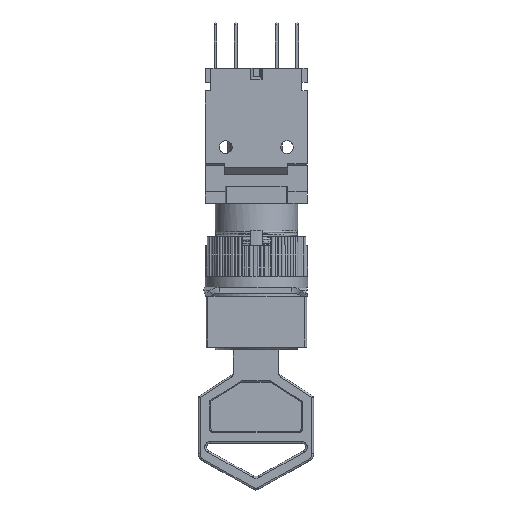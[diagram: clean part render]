
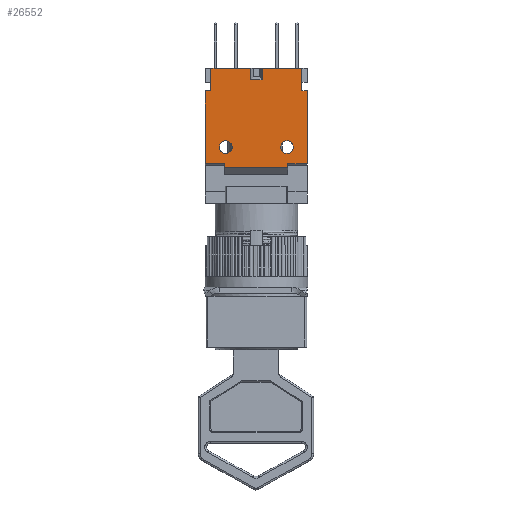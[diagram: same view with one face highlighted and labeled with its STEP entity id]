
A CAD part, front view. The second image highlights one B-rep face of the part: STEP entity #26552.
In plain terms, the highlighted planar face has unit normal (0, -1, 0).
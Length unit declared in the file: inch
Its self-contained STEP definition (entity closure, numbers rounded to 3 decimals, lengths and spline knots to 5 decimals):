
#6380=DIRECTION('',(0.,0.,1.));
#6381=VECTOR('',#6380,4.);
#6382=CARTESIAN_POINT('',(17.15,0.15,-12.2));
#6383=LINE('',#6382,#6381);
#6464=DIRECTION('',(-1.,0.,0.));
#6465=VECTOR('',#6464,1.);
#6466=CARTESIAN_POINT('',(18.15,0.15,-12.2));
#6467=LINE('',#6466,#6465);
#6480=DIRECTION('',(1.,0.,0.));
#6481=VECTOR('',#6480,7.05);
#6482=CARTESIAN_POINT('',(10.1,0.15,-8.2));
#6483=LINE('',#6482,#6481);
#6484=DIRECTION('',(0.,0.,-1.));
#6485=VECTOR('',#6484,12.9);
#6486=CARTESIAN_POINT('',(18.15,0.15,-12.2));
#6487=LINE('',#6486,#6485);
#6488=DIRECTION('',(0.,0.,-1.));
#6489=VECTOR('',#6488,0.75);
#6490=CARTESIAN_POINT('',(14.65,0.15,-25.1));
#6491=LINE('',#6490,#6489);
#6492=DIRECTION('',(0.,0.,1.));
#6493=VECTOR('',#6492,12.9);
#6494=CARTESIAN_POINT('',(0.05,0.15,-25.1));
#6495=LINE('',#6494,#6493);
#6496=DIRECTION('',(0.,0.,1.));
#6497=VECTOR('',#6496,4.);
#6498=CARTESIAN_POINT('',(1.05,0.15,-12.2));
#6499=LINE('',#6498,#6497);
#6500=DIRECTION('',(1.,0.,0.));
#6501=VECTOR('',#6500,7.05);
#6502=CARTESIAN_POINT('',(1.05,0.15,-8.2));
#6503=LINE('',#6502,#6501);
#6504=CARTESIAN_POINT('',(14.525,0.15,-22.165));
#6505=DIRECTION('',(0.,-1.,0.));
#6506=DIRECTION('',(-1.,0.,0.));
#6507=AXIS2_PLACEMENT_3D('',#6504,#6505,#6506);
#6509=CARTESIAN_POINT('',(14.525,0.15,-22.165));
#6510=DIRECTION('',(0.,-1.,0.));
#6511=DIRECTION('',(1.,0.,0.));
#6512=AXIS2_PLACEMENT_3D('',#6509,#6510,#6511);
#6514=CARTESIAN_POINT('',(3.675,0.15,-22.165));
#6515=DIRECTION('',(0.,-1.,0.));
#6516=DIRECTION('',(-1.,0.,0.));
#6517=AXIS2_PLACEMENT_3D('',#6514,#6515,#6516);
#6519=CARTESIAN_POINT('',(3.675,0.15,-22.165));
#6520=DIRECTION('',(0.,-1.,0.));
#6521=DIRECTION('',(1.,0.,0.));
#6522=AXIS2_PLACEMENT_3D('',#6519,#6520,#6521);
#6524=DIRECTION('',(0.,0.,-1.));
#6525=VECTOR('',#6524,2.);
#6526=CARTESIAN_POINT('',(10.1,0.15,-8.2));
#6527=LINE('',#6526,#6525);
#6528=DIRECTION('',(-1.,0.,0.));
#6529=VECTOR('',#6528,2.);
#6530=CARTESIAN_POINT('',(10.1,0.15,-10.2));
#6531=LINE('',#6530,#6529);
#6540=DIRECTION('',(0.,0.,1.));
#6541=VECTOR('',#6540,2.);
#6542=CARTESIAN_POINT('',(8.1,0.15,-10.2));
#6543=LINE('',#6542,#6541);
#6564=DIRECTION('',(1.,0.,0.));
#6565=VECTOR('',#6564,3.5);
#6566=CARTESIAN_POINT('',(14.65,0.15,-25.1));
#6567=LINE('',#6566,#6565);
#10903=DIRECTION('',(1.,0.,0.));
#10904=VECTOR('',#10903,3.4);
#10905=CARTESIAN_POINT('',(0.05,0.15,-25.1));
#10906=LINE('',#10905,#10904);
#10915=DIRECTION('',(0.,0.,-1.));
#10916=VECTOR('',#10915,0.75);
#10917=CARTESIAN_POINT('',(3.45,0.15,-25.1));
#10918=LINE('',#10917,#10916);
#10923=DIRECTION('',(1.,0.,0.));
#10924=VECTOR('',#10923,11.2);
#10925=CARTESIAN_POINT('',(3.45,0.15,-25.85));
#10926=LINE('',#10925,#10924);
#10971=DIRECTION('',(-1.,0.,0.));
#10972=VECTOR('',#10971,1.);
#10973=CARTESIAN_POINT('',(1.05,0.15,-12.2));
#10974=LINE('',#10973,#10972);
#17526=CARTESIAN_POINT('',(18.15,0.15,-25.1));
#17527=VERTEX_POINT('',#17526);
#17528=CARTESIAN_POINT('',(18.15,0.15,-12.2));
#17529=VERTEX_POINT('',#17528);
#17568=CARTESIAN_POINT('',(17.15,0.15,-8.2));
#17569=VERTEX_POINT('',#17568);
#17570=CARTESIAN_POINT('',(10.1,0.15,-8.2));
#17571=VERTEX_POINT('',#17570);
#17576=CARTESIAN_POINT('',(8.1,0.15,-8.2));
#17577=VERTEX_POINT('',#17576);
#17578=CARTESIAN_POINT('',(1.05,0.15,-8.2));
#17579=VERTEX_POINT('',#17578);
#18228=CARTESIAN_POINT('',(14.65,0.15,-25.1));
#18229=CARTESIAN_POINT('',(14.65,0.15,-25.85));
#18230=VERTEX_POINT('',#18228);
#18231=VERTEX_POINT('',#18229);
#18336=CARTESIAN_POINT('',(0.05,0.15,-12.2));
#18337=VERTEX_POINT('',#18336);
#18338=CARTESIAN_POINT('',(0.05,0.15,-25.1));
#18340=VERTEX_POINT('',#18338);
#18365=CARTESIAN_POINT('',(1.05,0.15,-12.2));
#18367=VERTEX_POINT('',#18365);
#18386=CARTESIAN_POINT('',(13.4,0.15,-22.165));
#18387=CARTESIAN_POINT('',(15.65,0.15,-22.165));
#18388=VERTEX_POINT('',#18386);
#18389=VERTEX_POINT('',#18387);
#18390=CARTESIAN_POINT('',(2.55,0.15,-22.165));
#18391=CARTESIAN_POINT('',(4.8,0.15,-22.165));
#18392=VERTEX_POINT('',#18390);
#18393=VERTEX_POINT('',#18391);
#18394=CARTESIAN_POINT('',(10.1,0.15,-10.2));
#18395=VERTEX_POINT('',#18394);
#18396=CARTESIAN_POINT('',(17.15,0.15,-12.2));
#18397=VERTEX_POINT('',#18396);
#18398=CARTESIAN_POINT('',(3.45,0.15,-25.85));
#18399=VERTEX_POINT('',#18398);
#18400=CARTESIAN_POINT('',(3.45,0.15,-25.1));
#18401=VERTEX_POINT('',#18400);
#18402=CARTESIAN_POINT('',(8.1,0.15,-10.2));
#18403=VERTEX_POINT('',#18402);
#26507=CARTESIAN_POINT('',(9.1,0.15,-17.025));
#26508=DIRECTION('',(0.,1.,0.));
#26509=DIRECTION('',(1.,0.,0.));
#26510=AXIS2_PLACEMENT_3D('',#26507,#26508,#26509);
#26511=PLANE('',#26510);
#26513=ORIENTED_EDGE('',*,*,#26512,.F.);
#26514=ORIENTED_EDGE('',*,*,#26219,.T.);
#26515=ORIENTED_EDGE('',*,*,#26364,.F.);
#26516=ORIENTED_EDGE('',*,*,#26499,.F.);
#26517=ORIENTED_EDGE('',*,*,#25923,.T.);
#26519=ORIENTED_EDGE('',*,*,#26518,.F.);
#26521=ORIENTED_EDGE('',*,*,#26520,.T.);
#26523=ORIENTED_EDGE('',*,*,#26522,.F.);
#26525=ORIENTED_EDGE('',*,*,#26524,.F.);
#26527=ORIENTED_EDGE('',*,*,#26526,.F.);
#26528=ORIENTED_EDGE('',*,*,#26056,.T.);
#26530=ORIENTED_EDGE('',*,*,#26529,.F.);
#26532=ORIENTED_EDGE('',*,*,#26531,.T.);
#26533=ORIENTED_EDGE('',*,*,#26227,.T.);
#26535=ORIENTED_EDGE('',*,*,#26534,.F.);
#26537=ORIENTED_EDGE('',*,*,#26536,.F.);
#26538=EDGE_LOOP('',(#26513,#26514,#26515,#26516,#26517,#26519,#26521,#26523,
#26525,#26527,#26528,#26530,#26532,#26533,#26535,#26537));
#26539=FACE_OUTER_BOUND('',#26538,.F.);
#26541=ORIENTED_EDGE('',*,*,#26540,.T.);
#26543=ORIENTED_EDGE('',*,*,#26542,.T.);
#26544=EDGE_LOOP('',(#26541,#26543));
#26545=FACE_BOUND('',#26544,.F.);
#26547=ORIENTED_EDGE('',*,*,#26546,.T.);
#26549=ORIENTED_EDGE('',*,*,#26548,.T.);
#26550=EDGE_LOOP('',(#26547,#26549));
#26551=FACE_BOUND('',#26550,.F.);
#26552=ADVANCED_FACE('',(#26539,#26545,#26551),#26511,.F.);
#6508=CIRCLE('',#6507,1.125);
#6513=CIRCLE('',#6512,1.125);
#6518=CIRCLE('',#6517,1.125);
#6523=CIRCLE('',#6522,1.125);
#25923=EDGE_CURVE('',#17529,#17527,#6487,.T.);
#26056=EDGE_CURVE('',#18340,#18337,#6495,.T.);
#26219=EDGE_CURVE('',#17571,#17569,#6483,.T.);
#26227=EDGE_CURVE('',#17579,#17577,#6503,.T.);
#26364=EDGE_CURVE('',#18397,#17569,#6383,.T.);
#26499=EDGE_CURVE('',#17529,#18397,#6467,.T.);
#26512=EDGE_CURVE('',#17571,#18395,#6527,.T.);
#26518=EDGE_CURVE('',#18230,#17527,#6567,.T.);
#26520=EDGE_CURVE('',#18230,#18231,#6491,.T.);
#26522=EDGE_CURVE('',#18399,#18231,#10926,.T.);
#26524=EDGE_CURVE('',#18401,#18399,#10918,.T.);
#26526=EDGE_CURVE('',#18340,#18401,#10906,.T.);
#26529=EDGE_CURVE('',#18367,#18337,#10974,.T.);
#26531=EDGE_CURVE('',#18367,#17579,#6499,.T.);
#26534=EDGE_CURVE('',#18403,#17577,#6543,.T.);
#26536=EDGE_CURVE('',#18395,#18403,#6531,.T.);
#26540=EDGE_CURVE('',#18388,#18389,#6508,.T.);
#26542=EDGE_CURVE('',#18389,#18388,#6513,.T.);
#26546=EDGE_CURVE('',#18392,#18393,#6518,.T.);
#26548=EDGE_CURVE('',#18393,#18392,#6523,.T.);
